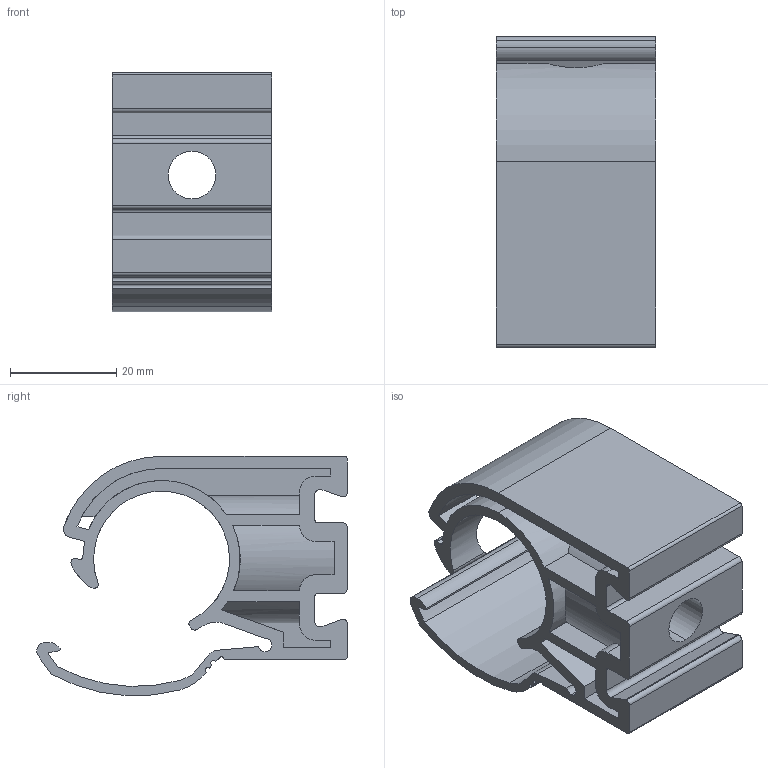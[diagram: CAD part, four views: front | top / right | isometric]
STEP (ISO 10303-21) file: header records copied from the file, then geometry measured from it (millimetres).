
FILE_DESCRIPTION (( 'STEP AP214' ), '1' );
FILE_NAME ('DIRFEM8025CF.STEP', '2017-12-19T10:37:19', ( 'utente' ), ( '' ), 'SwSTEP 2.0', 'SolidWorks 2017', '' );
FILE_SCHEMA (( 'AUTOMOTIVE_DESIGN' ));
Length unit declared in the file: millimetre
Products named in the file (1): DIRFEM8025CF
Bounding box: 30 x 58.52 x 45.14 mm (x, y, z)
Volume: 22418.3 mm3; surface area: 17763.6 mm2
Topology: 1 solids, 1 shells, 172 faces, 492 edges, 328 vertices
Faces by surface type: cylinder 92, plane 80
Entity records: 6078 total; most frequent: CARTESIAN_POINT 1495, ORIENTED_EDGE 984, DIRECTION 938, EDGE_CURVE 492, VERTEX_POINT 328, AXIS2_PLACEMENT_3D 323, VECTOR 292, LINE 292
